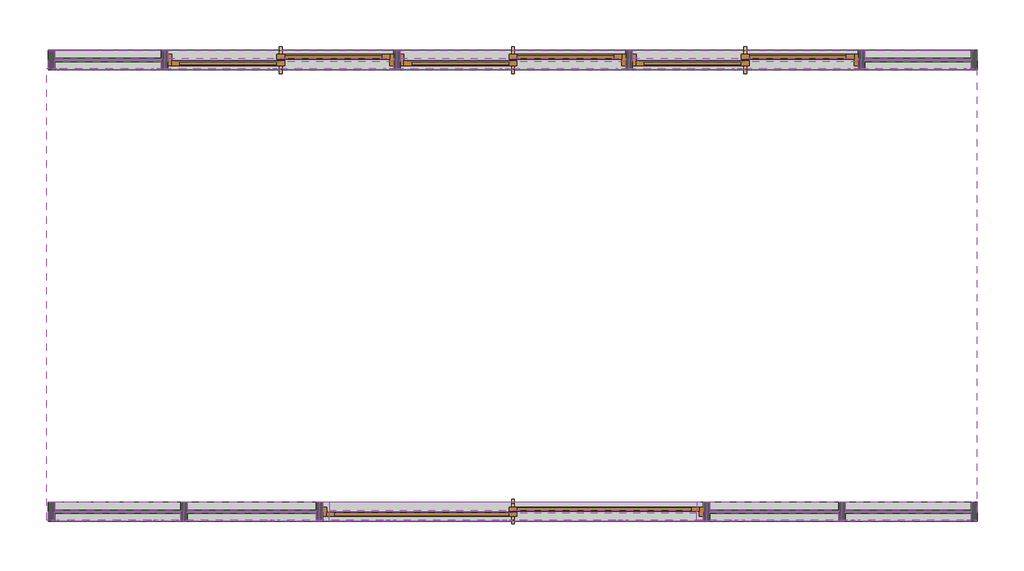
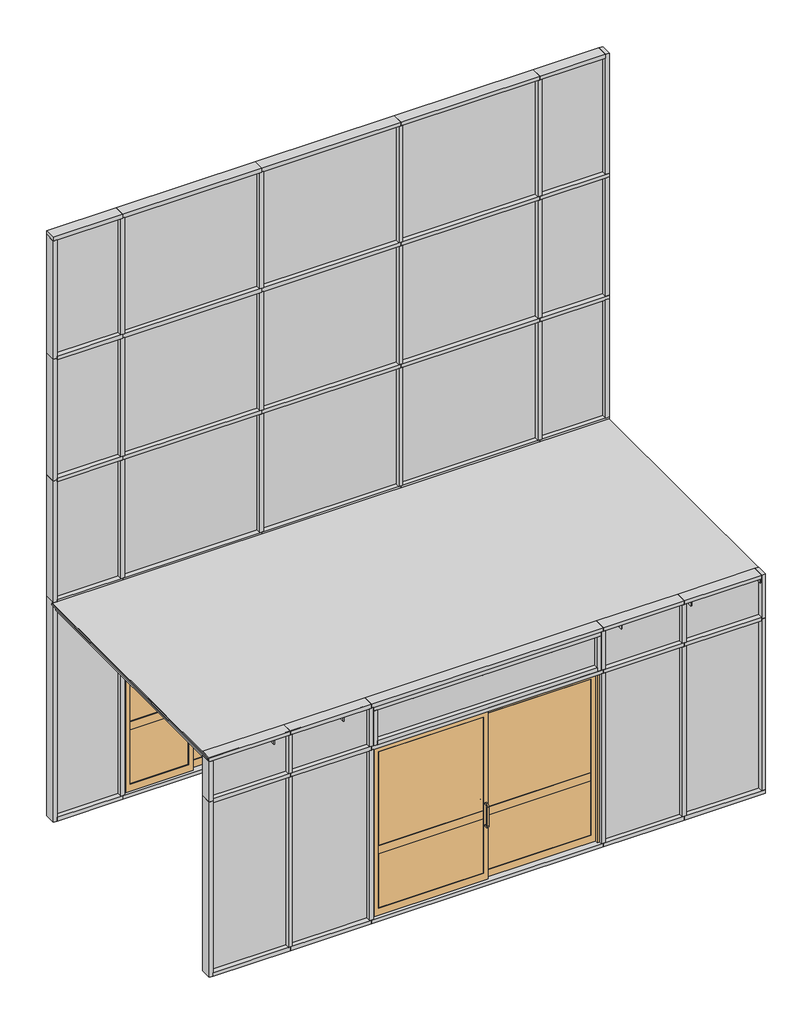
# One storey: 80 members, 26 plates, 4 doors, 1 proxy.
"""IFC4 building model written with IfcOpenShell, lengths in millimetres."""

from ifc_helpers import new_model, si_unit, origin, place, context, project, spatial, transform, mapped, element, save
from components import generic_models_ae8a6056, door_10a05554, door_769b4ac8, member_50_x_150mm_68c91185, member_50_x_150mm_2a8eee0f, member_50_x_150mm_b7028314, member_50_x_150mm_324a6438, member_50_x_150mm_f478ca5a, member_50_x_150mm_35d6a770, member_50_x_150mm_185cfd49, member_50_x_150mm_f0202a9a, member_50_x_150mm_d558323d, member_50_x_150mm_1a85c1a0, member_50_x_150mm_9413a2d2, member_50_x_150mm_dc2b1c3d, member_50_x_150mm_083f1865, member_50_x_150mm_3ddb3363, member_50_x_150mm_1a36453b, member_50_x_150mm_8e7af95f, member_50_x_150mm_f6dd28bf, member_50_x_150mm_b3830fd3, member_50_x_150mm_bbc1c4ea, member_50_x_150mm_a9c68ae1, member_50_x_150mm_6c7cb899, member_50_x_150mm_8a69f4a4, member_50_x_150mm_8b0a0560, member_50_x_150mm_5dbd0429, member_50_x_150mm_42d59fea, member_50_x_150mm_eeb88b28, member_50_x_150mm_64d38db8, member_50_x_150mm_662c37b1, plate_bb70c031, plate_3fd0e253, plate_78e2e13e, plate_dec8ca84, plate_94bff21c, plate_675320a8, plate_497e7cac, plate_136095a1, plate_56ee0192, plate_ec4b1889

model = new_model("IFC4")

# Units and contexts
model_context = context("Model", 3, world=origin())
ifc_project = project(units=[si_unit("LENGTHUNIT", "METRE", prefix="MILLI")], contexts=[model_context])

# Site, building, storey
site = spatial("IfcSite", under=ifc_project)
building = spatial("IfcBuilding", under=site)
storey = spatial("IfcBuildingStorey", under=building, Name="标高 1", Elevation=0.0)

# Proxy
placement = place(None, origin())
generic_models_shape = generic_models_ae8a6056(model_context)
element("IfcBuildingElementProxy", 1, Name="大玻璃雨棚 : 标准", ObjectType="大玻璃雨棚 : 标准", at=placement, inside=storey, context=model_context, shape_type="MappedRepresentation", body=[
    mapped(generic_models_shape, transform((-5493.2330937, -968.8617138, 0.0), x_axis=(1.0, 0.0, 0.0), y_axis=(0.0, 1.0, 0.0), z_axis=(0.0, 0.0, 1.0))),
])

# Doors
door_shape = door_10a05554(model_context)
element("IfcDoor", 2, ObjectType="门嵌板_70-90 系列双扇推拉铝门 : 90系列有横档", at=placement, inside=storey, context=model_context, shape_type="MappedRepresentation", body=[
    mapped(door_shape, transform((-5188.2330937, -903.8617138, 50.0), x_axis=(1.0, 0.0, 0.0), y_axis=(0.0, 1.0, 0.0), z_axis=(0.0, 0.0, 1.0))),
])
element("IfcDoor", 3, ObjectType="门嵌板_70-90 系列双扇推拉铝门 : 90系列有横档", at=placement, inside=storey, context=model_context, shape_type="MappedRepresentation", body=[
    mapped(door_shape, transform((-3388.2330937, -903.8617138, 50.0), x_axis=(1.0, 0.0, 0.0), y_axis=(0.0, 1.0, 0.0), z_axis=(0.0, 0.0, 1.0))),
])
element("IfcDoor", 4, ObjectType="门嵌板_70-90 系列双扇推拉铝门 : 90系列有横档", at=placement, inside=storey, context=model_context, shape_type="MappedRepresentation", body=[
    mapped(door_shape, transform((-1588.2330937, -903.8617138, 50.0), x_axis=(1.0, 0.0, 0.0), y_axis=(0.0, 1.0, 0.0), z_axis=(0.0, 0.0, 1.0))),
])
door_2_shape = door_769b4ac8(model_context)
element("IfcDoor", 5, ObjectType="门嵌板_70-90 系列双扇推拉铝门 : 70系列有横档", at=placement, inside=storey, context=model_context, shape_type="MappedRepresentation", body=[
    mapped(door_2_shape, transform((-3388.2330937, -4403.8617138, 50.0), x_axis=(1.0, 0.0, 0.0), y_axis=(0.0, 1.0, 0.0), z_axis=(0.0, 0.0, 1.0))),
])

# Members
member_50_x_150mm_shape = member_50_x_150mm_68c91185(model_context)
element("IfcMember", 6, ObjectType="矩形竖梃 : 50 x 150mm", at=placement, inside=storey, context=model_context, shape_type="MappedRepresentation", body=[
    mapped(member_50_x_150mm_shape, transform((-6988.2330937, -903.8617138, 3000.0), x_axis=(-1.0, 0.0, 0.0), y_axis=(0.0, -1.0, 0.0), z_axis=(0.0, 0.0, 1.0))),
])
member_50_x_150mm_2_shape = member_50_x_150mm_2a8eee0f(model_context)
element("IfcMember", 7, ObjectType="矩形竖梃 : 50 x 150mm", at=placement, inside=storey, context=model_context, shape_type="MappedRepresentation", body=[
    mapped(member_50_x_150mm_2_shape, transform((-6988.2330937, -903.8617138, 4666.6666667), x_axis=(-1.0, 0.0, 0.0), y_axis=(0.0, -1.0, 0.0), z_axis=(0.0, 0.0, 1.0))),
])
element("IfcMember", 8, ObjectType="矩形竖梃 : 50 x 150mm", at=placement, inside=storey, context=model_context, shape_type="MappedRepresentation", body=[
    mapped(member_50_x_150mm_2_shape, transform((-6988.2330937, -903.8617138, 6333.3333333), x_axis=(-1.0, 0.0, 0.0), y_axis=(0.0, -1.0, 0.0), z_axis=(0.0, 0.0, 1.0))),
])
member_50_x_150mm_3_shape = member_50_x_150mm_b7028314(model_context)
element("IfcMember", 9, ObjectType="矩形竖梃 : 50 x 150mm", at=placement, inside=storey, context=model_context, shape_type="MappedRepresentation", body=[
    mapped(member_50_x_150mm_3_shape, transform((-6988.2330937, -903.8617138, 7950.0), x_axis=(-1.0, 0.0, 0.0), y_axis=(0.0, -1.0, 0.0), z_axis=(0.0, 0.0, 1.0))),
])
member_50_x_150mm_4_shape = member_50_x_150mm_324a6438(model_context)
element("IfcMember", 10, ObjectType="矩形竖梃 : 50 x 150mm", at=placement, inside=storey, context=model_context, shape_type="MappedRepresentation", body=[
    mapped(member_50_x_150mm_4_shape, transform((-6938.2330937, -903.8617138, 0.0), x_axis=(0.0, 0.0, -1.0), y_axis=(0.0, -1.0, 0.0), z_axis=(-1.0, 0.0, 0.0))),
])
member_50_x_150mm_5_shape = member_50_x_150mm_f478ca5a(model_context)
element("IfcMember", 11, ObjectType="矩形竖梃 : 50 x 150mm", at=placement, inside=storey, context=model_context, shape_type="MappedRepresentation", body=[
    mapped(member_50_x_150mm_5_shape, transform((-6088.2330937, -903.8617138, 3000.0), x_axis=(0.0, 0.0, 1.0), y_axis=(0.0, -1.0, 0.0), z_axis=(1.0, 0.0, 0.0))),
])
element("IfcMember", 12, ObjectType="矩形竖梃 : 50 x 150mm", at=placement, inside=storey, context=model_context, shape_type="MappedRepresentation", body=[
    mapped(member_50_x_150mm_5_shape, transform((-6088.2330937, -903.8617138, 4666.6666667), x_axis=(0.0, 0.0, 1.0), y_axis=(0.0, -1.0, 0.0), z_axis=(1.0, 0.0, 0.0))),
])
element("IfcMember", 13, ObjectType="矩形竖梃 : 50 x 150mm", at=placement, inside=storey, context=model_context, shape_type="MappedRepresentation", body=[
    mapped(member_50_x_150mm_5_shape, transform((-6088.2330937, -903.8617138, 6333.3333333), x_axis=(0.0, 0.0, 1.0), y_axis=(0.0, -1.0, 0.0), z_axis=(1.0, 0.0, 0.0))),
])
member_50_x_150mm_6_shape = member_50_x_150mm_35d6a770(model_context)
element("IfcMember", 14, ObjectType="矩形竖梃 : 50 x 150mm", at=placement, inside=storey, context=model_context, shape_type="MappedRepresentation", body=[
    mapped(member_50_x_150mm_6_shape, transform((-6088.2330937, -903.8617138, 8000.0), x_axis=(0.0, 0.0, 1.0), y_axis=(0.0, -1.0, 0.0), z_axis=(1.0, 0.0, 0.0))),
])
member_50_x_150mm_7_shape = member_50_x_150mm_185cfd49(model_context)
element("IfcMember", 15, ObjectType="矩形竖梃 : 50 x 150mm", at=placement, inside=storey, context=model_context, shape_type="MappedRepresentation", body=[
    mapped(member_50_x_150mm_7_shape, transform((-6088.2330937, -903.8617138, 50.0), x_axis=(1.0, 0.0, 0.0), y_axis=(0.0, -1.0, 0.0), z_axis=(0.0, 0.0, -1.0))),
])
element("IfcMember", 16, ObjectType="矩形竖梃 : 50 x 150mm", at=placement, inside=storey, context=model_context, shape_type="MappedRepresentation", body=[
    mapped(member_50_x_150mm_7_shape, transform((-4288.2330937, -903.8617138, 50.0), x_axis=(1.0, 0.0, 0.0), y_axis=(0.0, -1.0, 0.0), z_axis=(0.0, 0.0, -1.0))),
])
element("IfcMember", 17, ObjectType="矩形竖梃 : 50 x 150mm", at=placement, inside=storey, context=model_context, shape_type="MappedRepresentation", body=[
    mapped(member_50_x_150mm_7_shape, transform((-2488.2330937, -903.8617138, 50.0), x_axis=(1.0, 0.0, 0.0), y_axis=(0.0, -1.0, 0.0), z_axis=(0.0, 0.0, -1.0))),
])
element("IfcMember", 18, ObjectType="矩形竖梃 : 50 x 150mm", at=placement, inside=storey, context=model_context, shape_type="MappedRepresentation", body=[
    mapped(member_50_x_150mm_7_shape, transform((-688.2330937, -903.8617138, 50.0), x_axis=(1.0, 0.0, 0.0), y_axis=(0.0, -1.0, 0.0), z_axis=(0.0, 0.0, -1.0))),
])
member_50_x_150mm_8_shape = member_50_x_150mm_f0202a9a(model_context)
element("IfcMember", 19, ObjectType="矩形竖梃 : 50 x 150mm", at=placement, inside=storey, context=model_context, shape_type="MappedRepresentation", body=[
    mapped(member_50_x_150mm_8_shape, transform((-6088.2330937, -903.8617138, 3025.0), x_axis=(1.0, 0.0, 0.0), y_axis=(0.0, -1.0, 0.0), z_axis=(0.0, 0.0, -1.0))),
])
element("IfcMember", 20, ObjectType="矩形竖梃 : 50 x 150mm", at=placement, inside=storey, context=model_context, shape_type="MappedRepresentation", body=[
    mapped(member_50_x_150mm_8_shape, transform((-6088.2330937, -903.8617138, 4691.6666667), x_axis=(1.0, 0.0, 0.0), y_axis=(0.0, -1.0, 0.0), z_axis=(0.0, 0.0, -1.0))),
])
element("IfcMember", 21, ObjectType="矩形竖梃 : 50 x 150mm", at=placement, inside=storey, context=model_context, shape_type="MappedRepresentation", body=[
    mapped(member_50_x_150mm_8_shape, transform((-4288.2330937, -903.8617138, 3025.0), x_axis=(1.0, 0.0, 0.0), y_axis=(0.0, -1.0, 0.0), z_axis=(0.0, 0.0, -1.0))),
])
element("IfcMember", 22, ObjectType="矩形竖梃 : 50 x 150mm", at=placement, inside=storey, context=model_context, shape_type="MappedRepresentation", body=[
    mapped(member_50_x_150mm_8_shape, transform((-4288.2330937, -903.8617138, 4691.6666667), x_axis=(1.0, 0.0, 0.0), y_axis=(0.0, -1.0, 0.0), z_axis=(0.0, 0.0, -1.0))),
])
element("IfcMember", 23, ObjectType="矩形竖梃 : 50 x 150mm", at=placement, inside=storey, context=model_context, shape_type="MappedRepresentation", body=[
    mapped(member_50_x_150mm_8_shape, transform((-2488.2330937, -903.8617138, 3025.0), x_axis=(1.0, 0.0, 0.0), y_axis=(0.0, -1.0, 0.0), z_axis=(0.0, 0.0, -1.0))),
])
element("IfcMember", 24, ObjectType="矩形竖梃 : 50 x 150mm", at=placement, inside=storey, context=model_context, shape_type="MappedRepresentation", body=[
    mapped(member_50_x_150mm_8_shape, transform((-2488.2330937, -903.8617138, 4691.6666667), x_axis=(1.0, 0.0, 0.0), y_axis=(0.0, -1.0, 0.0), z_axis=(0.0, 0.0, -1.0))),
])
element("IfcMember", 25, ObjectType="矩形竖梃 : 50 x 150mm", at=placement, inside=storey, context=model_context, shape_type="MappedRepresentation", body=[
    mapped(member_50_x_150mm_8_shape, transform((-688.2330937, -903.8617138, 3025.0), x_axis=(1.0, 0.0, 0.0), y_axis=(0.0, -1.0, 0.0), z_axis=(0.0, 0.0, -1.0))),
])
element("IfcMember", 26, ObjectType="矩形竖梃 : 50 x 150mm", at=placement, inside=storey, context=model_context, shape_type="MappedRepresentation", body=[
    mapped(member_50_x_150mm_8_shape, transform((-688.2330937, -903.8617138, 4691.6666667), x_axis=(1.0, 0.0, 0.0), y_axis=(0.0, -1.0, 0.0), z_axis=(0.0, 0.0, -1.0))),
])
member_50_x_150mm_9_shape = member_50_x_150mm_d558323d(model_context)
element("IfcMember", 27, ObjectType="矩形竖梃 : 50 x 150mm", at=placement, inside=storey, context=model_context, shape_type="MappedRepresentation", body=[
    mapped(member_50_x_150mm_9_shape, transform((-6088.2330937, -903.8617138, 6358.3333333), x_axis=(1.0, 0.0, 0.0), y_axis=(0.0, -1.0, 0.0), z_axis=(0.0, 0.0, -1.0))),
])
element("IfcMember", 28, ObjectType="矩形竖梃 : 50 x 150mm", at=placement, inside=storey, context=model_context, shape_type="MappedRepresentation", body=[
    mapped(member_50_x_150mm_9_shape, transform((-4288.2330937, -903.8617138, 6358.3333333), x_axis=(1.0, 0.0, 0.0), y_axis=(0.0, -1.0, 0.0), z_axis=(0.0, 0.0, -1.0))),
])
element("IfcMember", 29, ObjectType="矩形竖梃 : 50 x 150mm", at=placement, inside=storey, context=model_context, shape_type="MappedRepresentation", body=[
    mapped(member_50_x_150mm_9_shape, transform((-2488.2330937, -903.8617138, 6358.3333333), x_axis=(1.0, 0.0, 0.0), y_axis=(0.0, -1.0, 0.0), z_axis=(0.0, 0.0, -1.0))),
])
element("IfcMember", 30, ObjectType="矩形竖梃 : 50 x 150mm", at=placement, inside=storey, context=model_context, shape_type="MappedRepresentation", body=[
    mapped(member_50_x_150mm_9_shape, transform((-688.2330937, -903.8617138, 6358.3333333), x_axis=(1.0, 0.0, 0.0), y_axis=(0.0, -1.0, 0.0), z_axis=(0.0, 0.0, -1.0))),
])
member_50_x_150mm_10_shape = member_50_x_150mm_1a85c1a0(model_context)
element("IfcMember", 31, ObjectType="矩形竖梃 : 50 x 150mm", at=placement, inside=storey, context=model_context, shape_type="MappedRepresentation", body=[
    mapped(member_50_x_150mm_10_shape, transform((211.7669063, -903.8617138, 50.0), x_axis=(1.0, 0.0, 0.0), y_axis=(0.0, -1.0, 0.0), z_axis=(0.0, 0.0, -1.0))),
])
element("IfcMember", 32, ObjectType="矩形竖梃 : 50 x 150mm", at=placement, inside=storey, context=model_context, shape_type="MappedRepresentation", body=[
    mapped(member_50_x_150mm_3_shape, transform((211.7669063, -903.8617138, 3025.0), x_axis=(1.0, 0.0, 0.0), y_axis=(0.0, -1.0, 0.0), z_axis=(0.0, 0.0, -1.0))),
])
element("IfcMember", 33, ObjectType="矩形竖梃 : 50 x 150mm", at=placement, inside=storey, context=model_context, shape_type="MappedRepresentation", body=[
    mapped(member_50_x_150mm_3_shape, transform((211.7669063, -903.8617138, 4691.6666667), x_axis=(1.0, 0.0, 0.0), y_axis=(0.0, -1.0, 0.0), z_axis=(0.0, 0.0, -1.0))),
])
member_50_x_150mm_11_shape = member_50_x_150mm_9413a2d2(model_context)
element("IfcMember", 34, ObjectType="矩形竖梃 : 50 x 150mm", at=placement, inside=storey, context=model_context, shape_type="MappedRepresentation", body=[
    mapped(member_50_x_150mm_11_shape, transform((211.7669063, -903.8617138, 6358.3333333), x_axis=(1.0, 0.0, 0.0), y_axis=(0.0, -1.0, 0.0), z_axis=(0.0, 0.0, -1.0))),
])
member_50_x_150mm_12_shape = member_50_x_150mm_dc2b1c3d(model_context)
element("IfcMember", 35, ObjectType="矩形竖梃 : 50 x 150mm", at=placement, inside=storey, context=model_context, shape_type="MappedRepresentation", body=[
    mapped(member_50_x_150mm_12_shape, transform((-6088.2330937, -903.8617138, 0.0), x_axis=(0.0, 0.0, -1.0), y_axis=(0.0, -1.0, 0.0), z_axis=(-1.0, 0.0, 0.0))),
])
element("IfcMember", 36, ObjectType="矩形竖梃 : 50 x 150mm", at=placement, inside=storey, context=model_context, shape_type="MappedRepresentation", body=[
    mapped(member_50_x_150mm_12_shape, transform((-4288.2330937, -903.8617138, 0.0), x_axis=(0.0, 0.0, -1.0), y_axis=(0.0, -1.0, 0.0), z_axis=(-1.0, 0.0, 0.0))),
])
element("IfcMember", 37, ObjectType="矩形竖梃 : 50 x 150mm", at=placement, inside=storey, context=model_context, shape_type="MappedRepresentation", body=[
    mapped(member_50_x_150mm_12_shape, transform((-2488.2330937, -903.8617138, 0.0), x_axis=(0.0, 0.0, -1.0), y_axis=(0.0, -1.0, 0.0), z_axis=(-1.0, 0.0, 0.0))),
])
member_50_x_150mm_13_shape = member_50_x_150mm_083f1865(model_context)
element("IfcMember", 38, ObjectType="矩形竖梃 : 50 x 150mm", at=placement, inside=storey, context=model_context, shape_type="MappedRepresentation", body=[
    mapped(member_50_x_150mm_13_shape, transform((-4288.2330937, -903.8617138, 3000.0), x_axis=(0.0, 0.0, 1.0), y_axis=(0.0, -1.0, 0.0), z_axis=(1.0, 0.0, 0.0))),
])
element("IfcMember", 39, ObjectType="矩形竖梃 : 50 x 150mm", at=placement, inside=storey, context=model_context, shape_type="MappedRepresentation", body=[
    mapped(member_50_x_150mm_13_shape, transform((-4288.2330937, -903.8617138, 4666.6666667), x_axis=(0.0, 0.0, 1.0), y_axis=(0.0, -1.0, 0.0), z_axis=(1.0, 0.0, 0.0))),
])
element("IfcMember", 40, ObjectType="矩形竖梃 : 50 x 150mm", at=placement, inside=storey, context=model_context, shape_type="MappedRepresentation", body=[
    mapped(member_50_x_150mm_13_shape, transform((-4288.2330937, -903.8617138, 6333.3333333), x_axis=(0.0, 0.0, 1.0), y_axis=(0.0, -1.0, 0.0), z_axis=(1.0, 0.0, 0.0))),
])
element("IfcMember", 41, ObjectType="矩形竖梃 : 50 x 150mm", at=placement, inside=storey, context=model_context, shape_type="MappedRepresentation", body=[
    mapped(member_50_x_150mm_13_shape, transform((-2488.2330937, -903.8617138, 3000.0), x_axis=(0.0, 0.0, 1.0), y_axis=(0.0, -1.0, 0.0), z_axis=(1.0, 0.0, 0.0))),
])
element("IfcMember", 42, ObjectType="矩形竖梃 : 50 x 150mm", at=placement, inside=storey, context=model_context, shape_type="MappedRepresentation", body=[
    mapped(member_50_x_150mm_13_shape, transform((-2488.2330937, -903.8617138, 4666.6666667), x_axis=(0.0, 0.0, 1.0), y_axis=(0.0, -1.0, 0.0), z_axis=(1.0, 0.0, 0.0))),
])
element("IfcMember", 43, ObjectType="矩形竖梃 : 50 x 150mm", at=placement, inside=storey, context=model_context, shape_type="MappedRepresentation", body=[
    mapped(member_50_x_150mm_13_shape, transform((-2488.2330937, -903.8617138, 6333.3333333), x_axis=(0.0, 0.0, 1.0), y_axis=(0.0, -1.0, 0.0), z_axis=(1.0, 0.0, 0.0))),
])
element("IfcMember", 44, ObjectType="矩形竖梃 : 50 x 150mm", at=placement, inside=storey, context=model_context, shape_type="MappedRepresentation", body=[
    mapped(member_50_x_150mm_13_shape, transform((-688.2330937, -903.8617138, 3000.0), x_axis=(0.0, 0.0, 1.0), y_axis=(0.0, -1.0, 0.0), z_axis=(1.0, 0.0, 0.0))),
])
element("IfcMember", 45, ObjectType="矩形竖梃 : 50 x 150mm", at=placement, inside=storey, context=model_context, shape_type="MappedRepresentation", body=[
    mapped(member_50_x_150mm_13_shape, transform((-688.2330937, -903.8617138, 4666.6666667), x_axis=(0.0, 0.0, 1.0), y_axis=(0.0, -1.0, 0.0), z_axis=(1.0, 0.0, 0.0))),
])
element("IfcMember", 46, ObjectType="矩形竖梃 : 50 x 150mm", at=placement, inside=storey, context=model_context, shape_type="MappedRepresentation", body=[
    mapped(member_50_x_150mm_13_shape, transform((-688.2330937, -903.8617138, 6333.3333333), x_axis=(0.0, 0.0, 1.0), y_axis=(0.0, -1.0, 0.0), z_axis=(1.0, 0.0, 0.0))),
])
element("IfcMember", 47, ObjectType="矩形竖梃 : 50 x 150mm", at=placement, inside=storey, context=model_context, shape_type="MappedRepresentation", body=[
    mapped(member_50_x_150mm_12_shape, transform((-4288.2330937, -903.8617138, 8000.0), x_axis=(0.0, 0.0, 1.0), y_axis=(0.0, -1.0, 0.0), z_axis=(1.0, 0.0, 0.0))),
])
element("IfcMember", 48, ObjectType="矩形竖梃 : 50 x 150mm", at=placement, inside=storey, context=model_context, shape_type="MappedRepresentation", body=[
    mapped(member_50_x_150mm_12_shape, transform((-2488.2330937, -903.8617138, 8000.0), x_axis=(0.0, 0.0, 1.0), y_axis=(0.0, -1.0, 0.0), z_axis=(1.0, 0.0, 0.0))),
])
element("IfcMember", 49, ObjectType="矩形竖梃 : 50 x 150mm", at=placement, inside=storey, context=model_context, shape_type="MappedRepresentation", body=[
    mapped(member_50_x_150mm_12_shape, transform((-688.2330937, -903.8617138, 8000.0), x_axis=(0.0, 0.0, 1.0), y_axis=(0.0, -1.0, 0.0), z_axis=(1.0, 0.0, 0.0))),
])
element("IfcMember", 50, ObjectType="矩形竖梃 : 50 x 150mm", at=placement, inside=storey, context=model_context, shape_type="MappedRepresentation", body=[
    mapped(member_50_x_150mm_4_shape, transform((161.7669063, -903.8617138, 8000.0), x_axis=(0.0, 0.0, 1.0), y_axis=(0.0, -1.0, 0.0), z_axis=(1.0, 0.0, 0.0))),
])
element("IfcMember", 51, ObjectType="矩形竖梃 : 50 x 150mm", at=placement, inside=storey, context=model_context, shape_type="MappedRepresentation", body=[
    mapped(member_50_x_150mm_6_shape, transform((-688.2330937, -903.8617138, 0.0), x_axis=(0.0, 0.0, -1.0), y_axis=(0.0, -1.0, 0.0), z_axis=(-1.0, 0.0, 0.0))),
])
member_50_x_150mm_14_shape = member_50_x_150mm_3ddb3363(model_context)
element("IfcMember", 52, ObjectType="矩形竖梃 : 50 x 150mm", at=placement, inside=storey, context=model_context, shape_type="MappedRepresentation", body=[
    mapped(member_50_x_150mm_14_shape, transform((211.7669063, -903.8617138, 3000.0), x_axis=(0.0, 0.0, 1.0), y_axis=(0.0, -1.0, 0.0), z_axis=(1.0, 0.0, 0.0))),
])
element("IfcMember", 53, ObjectType="矩形竖梃 : 50 x 150mm", at=placement, inside=storey, context=model_context, shape_type="MappedRepresentation", body=[
    mapped(member_50_x_150mm_14_shape, transform((211.7669063, -903.8617138, 4666.6666667), x_axis=(0.0, 0.0, 1.0), y_axis=(0.0, -1.0, 0.0), z_axis=(1.0, 0.0, 0.0))),
])
element("IfcMember", 54, ObjectType="矩形竖梃 : 50 x 150mm", at=placement, inside=storey, context=model_context, shape_type="MappedRepresentation", body=[
    mapped(member_50_x_150mm_14_shape, transform((211.7669063, -903.8617138, 6333.3333333), x_axis=(0.0, 0.0, 1.0), y_axis=(0.0, -1.0, 0.0), z_axis=(1.0, 0.0, 0.0))),
])
element("IfcMember", 55, ObjectType="矩形竖梃 : 50 x 150mm", at=placement, inside=storey, context=model_context, shape_type="MappedRepresentation", body=[
    mapped(member_50_x_150mm_shape, transform((-4888.2330937, -4403.8617138, 0.0), x_axis=(0.0, 0.0, -1.0), y_axis=(0.0, -1.0, 0.0), z_axis=(-1.0, 0.0, 0.0))),
])
element("IfcMember", 56, ObjectType="矩形竖梃 : 50 x 150mm", at=placement, inside=storey, context=model_context, shape_type="MappedRepresentation", body=[
    mapped(member_50_x_150mm_shape, transform((-1888.2330937, -4403.8617138, 3000.0), x_axis=(0.0, 0.0, 1.0), y_axis=(0.0, -1.0, 0.0), z_axis=(1.0, 0.0, 0.0))),
])
member_50_x_150mm_15_shape = member_50_x_150mm_1a36453b(model_context)
element("IfcMember", 57, ObjectType="矩形竖梃 : 50 x 150mm", at=placement, inside=storey, context=model_context, shape_type="MappedRepresentation", body=[
    mapped(member_50_x_150mm_15_shape, transform((-1888.2330937, -4403.8617138, 0.0), x_axis=(0.0, 0.0, -1.0), y_axis=(0.0, -1.0, 0.0), z_axis=(-1.0, 0.0, 0.0))),
])
element("IfcMember", 58, ObjectType="矩形竖梃 : 50 x 150mm", at=placement, inside=storey, context=model_context, shape_type="MappedRepresentation", body=[
    mapped(member_50_x_150mm_15_shape, transform((-5938.2330937, -4403.8617138, 0.0), x_axis=(0.0, 0.0, -1.0), y_axis=(0.0, -1.0, 0.0), z_axis=(-1.0, 0.0, 0.0))),
])
element("IfcMember", 59, ObjectType="矩形竖梃 : 50 x 150mm", at=placement, inside=storey, context=model_context, shape_type="MappedRepresentation", body=[
    mapped(member_50_x_150mm_15_shape, transform((-4888.2330937, -4403.8617138, 3000.0), x_axis=(0.0, 0.0, 1.0), y_axis=(0.0, -1.0, 0.0), z_axis=(1.0, 0.0, 0.0))),
])
element("IfcMember", 60, ObjectType="矩形竖梃 : 50 x 150mm", at=placement, inside=storey, context=model_context, shape_type="MappedRepresentation", body=[
    mapped(member_50_x_150mm_15_shape, transform((-838.2330937, -4403.8617138, 3000.0), x_axis=(0.0, 0.0, 1.0), y_axis=(0.0, -1.0, 0.0), z_axis=(1.0, 0.0, 0.0))),
])
element("IfcMember", 61, ObjectType="矩形竖梃 : 50 x 150mm", at=placement, inside=storey, context=model_context, shape_type="MappedRepresentation", body=[
    mapped(member_50_x_150mm_15_shape, transform((-838.2330937, -4403.8617138, 0.0), x_axis=(0.0, 0.0, -1.0), y_axis=(0.0, -1.0, 0.0), z_axis=(-1.0, 0.0, 0.0))),
])
element("IfcMember", 62, ObjectType="矩形竖梃 : 50 x 150mm", at=placement, inside=storey, context=model_context, shape_type="MappedRepresentation", body=[
    mapped(member_50_x_150mm_15_shape, transform((-5938.2330937, -4403.8617138, 3000.0), x_axis=(0.0, 0.0, 1.0), y_axis=(0.0, -1.0, 0.0), z_axis=(1.0, 0.0, 0.0))),
])
member_50_x_150mm_16_shape = member_50_x_150mm_8e7af95f(model_context)
element("IfcMember", 63, ObjectType="矩形竖梃 : 50 x 150mm", at=placement, inside=storey, context=model_context, shape_type="MappedRepresentation", body=[
    mapped(member_50_x_150mm_16_shape, transform((-4813.2330937, -4403.8617138, 2425.0), x_axis=(0.0, 0.0, -1.0), y_axis=(0.0, -1.0, 0.0), z_axis=(-1.0, 0.0, 0.0))),
])
member_50_x_150mm_17_shape = member_50_x_150mm_f6dd28bf(model_context)
element("IfcMember", 64, ObjectType="矩形竖梃 : 50 x 150mm", at=placement, inside=storey, context=model_context, shape_type="MappedRepresentation", body=[
    mapped(member_50_x_150mm_17_shape, transform((-1913.2330937, -4403.8617138, 2950.0), x_axis=(0.0, 0.0, 1.0), y_axis=(0.0, -1.0, 0.0), z_axis=(1.0, 0.0, 0.0))),
])
member_50_x_150mm_18_shape = member_50_x_150mm_b3830fd3(model_context)
element("IfcMember", 65, ObjectType="矩形竖梃 : 50 x 150mm", at=placement, inside=storey, context=model_context, shape_type="MappedRepresentation", body=[
    mapped(member_50_x_150mm_18_shape, transform((-4888.2330937, -4403.8617138, 50.0), x_axis=(1.0, 0.0, 0.0), y_axis=(0.0, -1.0, 0.0), z_axis=(0.0, 0.0, -1.0))),
])
element("IfcMember", 66, ObjectType="矩形竖梃 : 50 x 150mm", at=placement, inside=storey, context=model_context, shape_type="MappedRepresentation", body=[
    mapped(member_50_x_150mm_18_shape, transform((-1888.2330937, -4403.8617138, 50.0), x_axis=(1.0, 0.0, 0.0), y_axis=(0.0, -1.0, 0.0), z_axis=(0.0, 0.0, -1.0))),
])
element("IfcMember", 67, ObjectType="矩形竖梃 : 50 x 150mm", at=placement, inside=storey, context=model_context, shape_type="MappedRepresentation", body=[
    mapped(member_50_x_150mm_18_shape, transform((-838.2330937, -4403.8617138, 50.0), x_axis=(1.0, 0.0, 0.0), y_axis=(0.0, -1.0, 0.0), z_axis=(0.0, 0.0, -1.0))),
])
element("IfcMember", 68, ObjectType="矩形竖梃 : 50 x 150mm", at=placement, inside=storey, context=model_context, shape_type="MappedRepresentation", body=[
    mapped(member_50_x_150mm_18_shape, transform((-5938.2330937, -4403.8617138, 50.0), x_axis=(1.0, 0.0, 0.0), y_axis=(0.0, -1.0, 0.0), z_axis=(0.0, 0.0, -1.0))),
])
member_50_x_150mm_19_shape = member_50_x_150mm_bbc1c4ea(model_context)
element("IfcMember", 69, ObjectType="矩形竖梃 : 50 x 150mm", at=placement, inside=storey, context=model_context, shape_type="MappedRepresentation", body=[
    mapped(member_50_x_150mm_19_shape, transform((-5938.2330937, -4403.8617138, 2400.0), x_axis=(0.0, 0.0, 1.0), y_axis=(0.0, -1.0, 0.0), z_axis=(1.0, 0.0, 0.0))),
])
member_50_x_150mm_20_shape = member_50_x_150mm_a9c68ae1(model_context)
element("IfcMember", 70, ObjectType="矩形竖梃 : 50 x 150mm", at=placement, inside=storey, context=model_context, shape_type="MappedRepresentation", body=[
    mapped(member_50_x_150mm_20_shape, transform((-4888.2330937, -4403.8617138, 2400.0), x_axis=(0.0, 0.0, 1.0), y_axis=(0.0, -1.0, 0.0), z_axis=(1.0, 0.0, 0.0))),
])
element("IfcMember", 71, ObjectType="矩形竖梃 : 50 x 150mm", at=placement, inside=storey, context=model_context, shape_type="MappedRepresentation", body=[
    mapped(member_50_x_150mm_20_shape, transform((-838.2330937, -4403.8617138, 2400.0), x_axis=(0.0, 0.0, 1.0), y_axis=(0.0, -1.0, 0.0), z_axis=(1.0, 0.0, 0.0))),
])
member_50_x_150mm_21_shape = member_50_x_150mm_6c7cb899(model_context)
element("IfcMember", 72, ObjectType="矩形竖梃 : 50 x 150mm", at=placement, inside=storey, context=model_context, shape_type="MappedRepresentation", body=[
    mapped(member_50_x_150mm_21_shape, transform((-1888.2330937, -4403.8617138, 2400.0), x_axis=(0.0, 0.0, 1.0), y_axis=(0.0, -1.0, 0.0), z_axis=(1.0, 0.0, 0.0))),
])
element("IfcMember", 73, ObjectType="矩形竖梃 : 50 x 150mm", at=placement, inside=storey, context=model_context, shape_type="MappedRepresentation", body=[
    mapped(member_50_x_150mm_19_shape, transform((161.7669063, -4403.8617138, 2400.0), x_axis=(0.0, 0.0, 1.0), y_axis=(0.0, -1.0, 0.0), z_axis=(1.0, 0.0, 0.0))),
])
member_50_x_150mm_22_shape = member_50_x_150mm_8a69f4a4(model_context)
element("IfcMember", 74, ObjectType="矩形竖梃 : 50 x 150mm", at=placement, inside=storey, context=model_context, shape_type="MappedRepresentation", body=[
    mapped(member_50_x_150mm_22_shape, transform((-5938.2330937, -4403.8617138, 2425.0), x_axis=(1.0, 0.0, 0.0), y_axis=(0.0, -1.0, 0.0), z_axis=(0.0, 0.0, -1.0))),
])
element("IfcMember", 75, ObjectType="矩形竖梃 : 50 x 150mm", at=placement, inside=storey, context=model_context, shape_type="MappedRepresentation", body=[
    mapped(member_50_x_150mm_22_shape, transform((-4888.2330937, -4403.8617138, 2425.0), x_axis=(1.0, 0.0, 0.0), y_axis=(0.0, -1.0, 0.0), z_axis=(0.0, 0.0, -1.0))),
])
element("IfcMember", 76, ObjectType="矩形竖梃 : 50 x 150mm", at=placement, inside=storey, context=model_context, shape_type="MappedRepresentation", body=[
    mapped(member_50_x_150mm_22_shape, transform((-1888.2330937, -4403.8617138, 2425.0), x_axis=(1.0, 0.0, 0.0), y_axis=(0.0, -1.0, 0.0), z_axis=(0.0, 0.0, -1.0))),
])
element("IfcMember", 77, ObjectType="矩形竖梃 : 50 x 150mm", at=placement, inside=storey, context=model_context, shape_type="MappedRepresentation", body=[
    mapped(member_50_x_150mm_22_shape, transform((-838.2330937, -4403.8617138, 2425.0), x_axis=(1.0, 0.0, 0.0), y_axis=(0.0, -1.0, 0.0), z_axis=(0.0, 0.0, -1.0))),
])
member_50_x_150mm_23_shape = member_50_x_150mm_8b0a0560(model_context)
element("IfcMember", 78, ObjectType="矩形竖梃 : 50 x 150mm", at=placement, inside=storey, context=model_context, shape_type="MappedRepresentation", body=[
    mapped(member_50_x_150mm_23_shape, transform((211.7669063, -4403.8617138, 50.0), x_axis=(1.0, 0.0, 0.0), y_axis=(0.0, -1.0, 0.0), z_axis=(0.0, 0.0, -1.0))),
])
member_50_x_150mm_24_shape = member_50_x_150mm_5dbd0429(model_context)
element("IfcMember", 79, ObjectType="矩形竖梃 : 50 x 150mm", at=placement, inside=storey, context=model_context, shape_type="MappedRepresentation", body=[
    mapped(member_50_x_150mm_24_shape, transform((-6988.2330937, -4403.8617138, 2950.0), x_axis=(-1.0, 0.0, 0.0), y_axis=(0.0, -1.0, 0.0), z_axis=(0.0, 0.0, 1.0))),
])
member_50_x_150mm_25_shape = member_50_x_150mm_42d59fea(model_context)
element("IfcMember", 80, ObjectType="矩形竖梃 : 50 x 150mm", at=placement, inside=storey, context=model_context, shape_type="MappedRepresentation", body=[
    mapped(member_50_x_150mm_25_shape, transform((-4863.2330937, -4403.8617138, 2900.0), x_axis=(-1.0, 0.0, 0.0), y_axis=(0.0, -1.0, 0.0), z_axis=(0.0, 0.0, 1.0))),
])
element("IfcMember", 81, ObjectType="矩形竖梃 : 50 x 150mm", at=placement, inside=storey, context=model_context, shape_type="MappedRepresentation", body=[
    mapped(member_50_x_150mm_25_shape, transform((-1913.2330937, -4403.8617138, 2425.0), x_axis=(1.0, 0.0, 0.0), y_axis=(0.0, -1.0, 0.0), z_axis=(0.0, 0.0, -1.0))),
])
member_50_x_150mm_26_shape = member_50_x_150mm_eeb88b28(model_context)
element("IfcMember", 82, ObjectType="矩形竖梃 : 50 x 150mm", at=placement, inside=storey, context=model_context, shape_type="MappedRepresentation", body=[
    mapped(member_50_x_150mm_26_shape, transform((161.7669063, -4403.8617138, 3000.0), x_axis=(0.0, 0.0, 1.0), y_axis=(0.0, -1.0, 0.0), z_axis=(1.0, 0.0, 0.0))),
])
element("IfcMember", 83, ObjectType="矩形竖梃 : 50 x 150mm", at=placement, inside=storey, context=model_context, shape_type="MappedRepresentation", body=[
    mapped(member_50_x_150mm_26_shape, transform((-6938.2330937, -4403.8617138, 0.0), x_axis=(0.0, 0.0, -1.0), y_axis=(0.0, -1.0, 0.0), z_axis=(-1.0, 0.0, 0.0))),
])
member_50_x_150mm_27_shape = member_50_x_150mm_64d38db8(model_context)
element("IfcMember", 84, ObjectType="矩形竖梃 : 50 x 150mm", at=placement, inside=storey, context=model_context, shape_type="MappedRepresentation", body=[
    mapped(member_50_x_150mm_27_shape, transform((211.7669063, -4403.8617138, 2400.0), x_axis=(1.0, 0.0, 0.0), y_axis=(0.0, -1.0, 0.0), z_axis=(0.0, 0.0, -1.0))),
])
member_50_x_150mm_28_shape = member_50_x_150mm_662c37b1(model_context)
element("IfcMember", 85, ObjectType="矩形竖梃 : 50 x 150mm", at=placement, inside=storey, context=model_context, shape_type="MappedRepresentation", body=[
    mapped(member_50_x_150mm_28_shape, transform((-6988.2330937, -4403.8617138, 2400.0), x_axis=(-1.0, 0.0, 0.0), y_axis=(0.0, -1.0, 0.0), z_axis=(0.0, 0.0, 1.0))),
])

# Plates
plate_shape = plate_bb70c031(model_context)
element("IfcPlate", 86, ObjectType="系统嵌板 : 玻璃", at=placement, inside=storey, context=model_context, shape_type="MappedRepresentation", body=[
    mapped(plate_shape, transform((-6525.7330937, -903.8617138, 50.0), x_axis=(1.0, 0.0, 0.0), y_axis=(0.0, 1.0, 0.0), z_axis=(0.0, 0.0, 1.0))),
])
element("IfcPlate", 87, ObjectType="系统嵌板 : 玻璃", at=placement, inside=storey, context=model_context, shape_type="MappedRepresentation", body=[
    mapped(plate_shape, transform((-250.7330937, -903.8617138, 50.0), x_axis=(1.0, 0.0, 0.0), y_axis=(0.0, 1.0, 0.0), z_axis=(0.0, 0.0, 1.0))),
])
plate_2_shape = plate_3fd0e253(model_context)
element("IfcPlate", 88, ObjectType="系统嵌板 : 玻璃", at=placement, inside=storey, context=model_context, shape_type="MappedRepresentation", body=[
    mapped(plate_2_shape, transform((-6525.7330937, -903.8617138, 3025.0), x_axis=(1.0, 0.0, 0.0), y_axis=(0.0, 1.0, 0.0), z_axis=(0.0, 0.0, 1.0))),
])
element("IfcPlate", 89, ObjectType="系统嵌板 : 玻璃", at=placement, inside=storey, context=model_context, shape_type="MappedRepresentation", body=[
    mapped(plate_2_shape, transform((-6525.7330937, -903.8617138, 4691.6666667), x_axis=(1.0, 0.0, 0.0), y_axis=(0.0, 1.0, 0.0), z_axis=(0.0, 0.0, 1.0))),
])
element("IfcPlate", 90, ObjectType="系统嵌板 : 玻璃", at=placement, inside=storey, context=model_context, shape_type="MappedRepresentation", body=[
    mapped(plate_2_shape, transform((-250.7330937, -903.8617138, 3025.0), x_axis=(1.0, 0.0, 0.0), y_axis=(0.0, 1.0, 0.0), z_axis=(0.0, 0.0, 1.0))),
])
element("IfcPlate", 91, ObjectType="系统嵌板 : 玻璃", at=placement, inside=storey, context=model_context, shape_type="MappedRepresentation", body=[
    mapped(plate_2_shape, transform((-250.7330937, -903.8617138, 4691.6666667), x_axis=(1.0, 0.0, 0.0), y_axis=(0.0, 1.0, 0.0), z_axis=(0.0, 0.0, 1.0))),
])
plate_3_shape = plate_78e2e13e(model_context)
element("IfcPlate", 92, ObjectType="系统嵌板 : 玻璃", at=placement, inside=storey, context=model_context, shape_type="MappedRepresentation", body=[
    mapped(plate_3_shape, transform((-6525.7330937, -903.8617138, 6358.3333333), x_axis=(1.0, 0.0, 0.0), y_axis=(0.0, 1.0, 0.0), z_axis=(0.0, 0.0, 1.0))),
])
element("IfcPlate", 93, ObjectType="系统嵌板 : 玻璃", at=placement, inside=storey, context=model_context, shape_type="MappedRepresentation", body=[
    mapped(plate_3_shape, transform((-250.7330937, -903.8617138, 6358.3333333), x_axis=(1.0, 0.0, 0.0), y_axis=(0.0, 1.0, 0.0), z_axis=(0.0, 0.0, 1.0))),
])
plate_4_shape = plate_dec8ca84(model_context)
element("IfcPlate", 94, ObjectType="系统嵌板 : 玻璃", at=placement, inside=storey, context=model_context, shape_type="MappedRepresentation", body=[
    mapped(plate_4_shape, transform((-5188.2330937, -903.8617138, 3025.0), x_axis=(1.0, 0.0, 0.0), y_axis=(0.0, 1.0, 0.0), z_axis=(0.0, 0.0, 1.0))),
])
element("IfcPlate", 95, ObjectType="系统嵌板 : 玻璃", at=placement, inside=storey, context=model_context, shape_type="MappedRepresentation", body=[
    mapped(plate_4_shape, transform((-5188.2330937, -903.8617138, 4691.6666667), x_axis=(1.0, 0.0, 0.0), y_axis=(0.0, 1.0, 0.0), z_axis=(0.0, 0.0, 1.0))),
])
element("IfcPlate", 96, ObjectType="系统嵌板 : 玻璃", at=placement, inside=storey, context=model_context, shape_type="MappedRepresentation", body=[
    mapped(plate_4_shape, transform((-3388.2330937, -903.8617138, 3025.0), x_axis=(1.0, 0.0, 0.0), y_axis=(0.0, 1.0, 0.0), z_axis=(0.0, 0.0, 1.0))),
])
element("IfcPlate", 97, ObjectType="系统嵌板 : 玻璃", at=placement, inside=storey, context=model_context, shape_type="MappedRepresentation", body=[
    mapped(plate_4_shape, transform((-3388.2330937, -903.8617138, 4691.6666667), x_axis=(1.0, 0.0, 0.0), y_axis=(0.0, 1.0, 0.0), z_axis=(0.0, 0.0, 1.0))),
])
element("IfcPlate", 98, ObjectType="系统嵌板 : 玻璃", at=placement, inside=storey, context=model_context, shape_type="MappedRepresentation", body=[
    mapped(plate_4_shape, transform((-1588.2330937, -903.8617138, 3025.0), x_axis=(1.0, 0.0, 0.0), y_axis=(0.0, 1.0, 0.0), z_axis=(0.0, 0.0, 1.0))),
])
element("IfcPlate", 99, ObjectType="系统嵌板 : 玻璃", at=placement, inside=storey, context=model_context, shape_type="MappedRepresentation", body=[
    mapped(plate_4_shape, transform((-1588.2330937, -903.8617138, 4691.6666667), x_axis=(1.0, 0.0, 0.0), y_axis=(0.0, 1.0, 0.0), z_axis=(0.0, 0.0, 1.0))),
])
plate_5_shape = plate_94bff21c(model_context)
element("IfcPlate", 100, ObjectType="系统嵌板 : 玻璃", at=placement, inside=storey, context=model_context, shape_type="MappedRepresentation", body=[
    mapped(plate_5_shape, transform((-5188.2330937, -903.8617138, 6358.3333333), x_axis=(1.0, 0.0, 0.0), y_axis=(0.0, 1.0, 0.0), z_axis=(0.0, 0.0, 1.0))),
])
element("IfcPlate", 101, ObjectType="系统嵌板 : 玻璃", at=placement, inside=storey, context=model_context, shape_type="MappedRepresentation", body=[
    mapped(plate_5_shape, transform((-3388.2330937, -903.8617138, 6358.3333333), x_axis=(1.0, 0.0, 0.0), y_axis=(0.0, 1.0, 0.0), z_axis=(0.0, 0.0, 1.0))),
])
element("IfcPlate", 102, ObjectType="系统嵌板 : 玻璃", at=placement, inside=storey, context=model_context, shape_type="MappedRepresentation", body=[
    mapped(plate_5_shape, transform((-1588.2330937, -903.8617138, 6358.3333333), x_axis=(1.0, 0.0, 0.0), y_axis=(0.0, 1.0, 0.0), z_axis=(0.0, 0.0, 1.0))),
])
plate_6_shape = plate_675320a8(model_context)
element("IfcPlate", 103, ObjectType="系统嵌板 : 玻璃", at=placement, inside=storey, context=model_context, shape_type="MappedRepresentation", body=[
    mapped(plate_6_shape, transform((-6450.7330937, -4403.8617138, 50.0), x_axis=(1.0, 0.0, 0.0), y_axis=(0.0, 1.0, 0.0), z_axis=(0.0, 0.0, 1.0))),
])
element("IfcPlate", 104, ObjectType="系统嵌板 : 玻璃", at=placement, inside=storey, context=model_context, shape_type="MappedRepresentation", body=[
    mapped(plate_6_shape, transform((-325.7330937, -4403.8617138, 50.0), x_axis=(1.0, 0.0, 0.0), y_axis=(0.0, 1.0, 0.0), z_axis=(0.0, 0.0, 1.0))),
])
plate_7_shape = plate_497e7cac(model_context)
element("IfcPlate", 105, ObjectType="系统嵌板 : 玻璃", at=placement, inside=storey, context=model_context, shape_type="MappedRepresentation", body=[
    mapped(plate_7_shape, transform((-1363.2330937, -4403.8617138, 50.0), x_axis=(1.0, 0.0, 0.0), y_axis=(0.0, 1.0, 0.0), z_axis=(0.0, 0.0, 1.0))),
])
element("IfcPlate", 106, ObjectType="系统嵌板 : 玻璃", at=placement, inside=storey, context=model_context, shape_type="MappedRepresentation", body=[
    mapped(plate_7_shape, transform((-5413.2330937, -4403.8617138, 50.0), x_axis=(1.0, 0.0, 0.0), y_axis=(0.0, 1.0, 0.0), z_axis=(0.0, 0.0, 1.0))),
])
plate_8_shape = plate_136095a1(model_context)
element("IfcPlate", 107, ObjectType="系统嵌板 : 玻璃", at=placement, inside=storey, context=model_context, shape_type="MappedRepresentation", body=[
    mapped(plate_8_shape, transform((-6450.7330937, -4403.8617138, 2425.0), x_axis=(1.0, 0.0, 0.0), y_axis=(0.0, 1.0, 0.0), z_axis=(0.0, 0.0, 1.0))),
])
element("IfcPlate", 108, ObjectType="系统嵌板 : 玻璃", at=placement, inside=storey, context=model_context, shape_type="MappedRepresentation", body=[
    mapped(plate_8_shape, transform((-325.7330937, -4403.8617138, 2425.0), x_axis=(1.0, 0.0, 0.0), y_axis=(0.0, 1.0, 0.0), z_axis=(0.0, 0.0, 1.0))),
])
plate_9_shape = plate_56ee0192(model_context)
element("IfcPlate", 109, ObjectType="系统嵌板 : 玻璃", at=placement, inside=storey, context=model_context, shape_type="MappedRepresentation", body=[
    mapped(plate_9_shape, transform((-5413.2330937, -4403.8617138, 2425.0), x_axis=(1.0, 0.0, 0.0), y_axis=(0.0, 1.0, 0.0), z_axis=(0.0, 0.0, 1.0))),
])
element("IfcPlate", 110, ObjectType="系统嵌板 : 玻璃", at=placement, inside=storey, context=model_context, shape_type="MappedRepresentation", body=[
    mapped(plate_9_shape, transform((-1363.2330937, -4403.8617138, 2425.0), x_axis=(1.0, 0.0, 0.0), y_axis=(0.0, 1.0, 0.0), z_axis=(0.0, 0.0, 1.0))),
])
plate_10_shape = plate_ec4b1889(model_context)
element("IfcPlate", 111, ObjectType="系统嵌板 : 玻璃", at=placement, inside=storey, context=model_context, shape_type="MappedRepresentation", body=[
    mapped(plate_10_shape, transform((-3388.2330937, -4403.8617138, 2475.0), x_axis=(1.0, 0.0, 0.0), y_axis=(0.0, 1.0, 0.0), z_axis=(0.0, 0.0, 1.0))),
])

save(model, "model.ifc")
